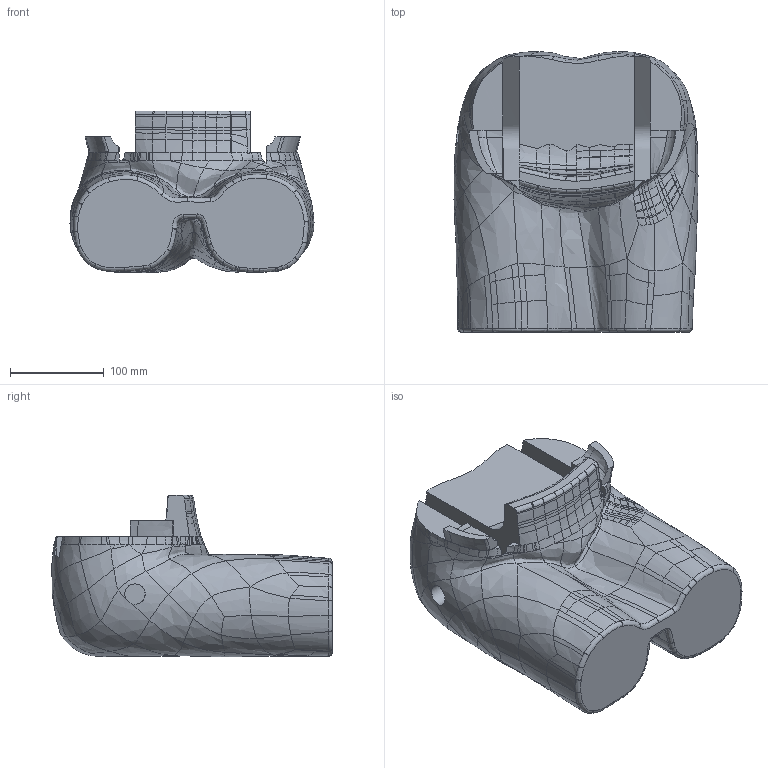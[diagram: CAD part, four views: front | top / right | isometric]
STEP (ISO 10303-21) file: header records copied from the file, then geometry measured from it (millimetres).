
FILE_DESCRIPTION(/* description */ (''),/* implementation_level */ '2;1');
FILE_NAME(/* name */ 'lowertorso (B).stp',/* time_stamp */ '2024-05-13T10:48:14-04:00',/* author */ ('Jim.Clevenger'),/* organization */ ('NHTSA/VRTC'),/* preprocessor_version */ 'ST-DEVELOPER v20',/* originating_system */ 'Autodesk Inventor 2024',/* authorisation */ '');
FILE_SCHEMA (('AUTOMOTIVE_DESIGN { 1 0 10303 214 3 1 1 }'));
Products named in the file (1): lowertorso (B)
Bounding box: 261.03 x 300.03 x 173.21 mm (x, y, z)
Volume: 7046898.6 mm3; surface area: 295914.8 mm2
Topology: 1 solids, 1 shells, 684 faces, 1731 edges, 1037 vertices
Faces by surface type: bspline 643, plane 32, cylinder 9
Full cylindrical faces by diameter (mm): 21.8 x2
Entity records: 85530 total; most frequent: CARTESIAN_POINT 74397, ORIENTED_EDGE 3438, EDGE_CURVE 1719, B_SPLINE_CURVE_WITH_KNOTS 1597, VERTEX_POINT 1037, EDGE_LOOP 688, FACE_OUTER_BOUND 684, ADVANCED_FACE 684
